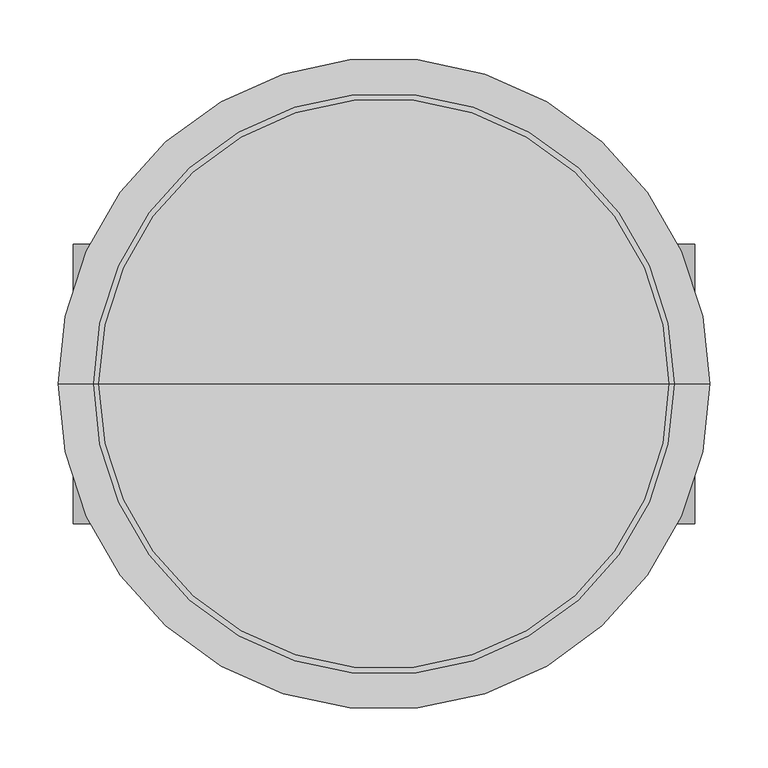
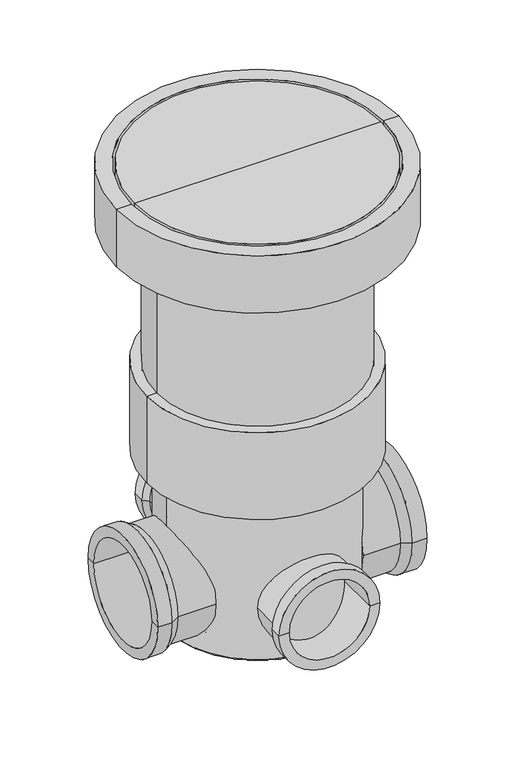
"""IFC4 building model written with IfcOpenShell, lengths in millimetres: pipe fitting geometry, PavcoWavin_UnionesDeTuberia_CajadeInspección400mm : Caja Inspección 400 mm."""

from ifc_helpers import new_model, si_unit, point, frame, origin, place, context, project, spatial, polyline, circle_curve, ellipse_curve, trimmed, source, transform, mapped, element, save
from ifc_brep_helpers import plane_surface, cylinder_surface, revolved_surface, advanced_brep


def pipe_fitting_6d74b92a(model_context):
    return source(origin(), model_context, "Body", "AdvancedBrep", [
        advanced_brep(
        [(90.0, -146.0, 0.0), (-90.0, -146.0, 0.0), (-80.0, -146.0, 0.0), (80.0, -146.0, 0.0), (-80.0, -247.0, 0.0), (80.0, -247.0, 0.0), (-100.0, -247.0, 0.0), (100.0, -247.0, 0.0), (-100.0, -224.0, 0.0), (100.0, -224.0, 0.0), (90.0, -214.0, 0.0), (-90.0, -214.0, 0.0)],
        [
            (0, 1, circle_curve(frame((0.0, -146.0, 0.0), z_axis=(0.0, 1.0, 0.0), x_axis=(-1.0, 0.0, 0.0)), 90.0)),
            (1, 2),
            (2, 3, circle_curve(frame((0.0, -146.0, 0.0), z_axis=(0.0, -1.0, 0.0), x_axis=(-1.0, 0.0, 0.0)), 80.0)),
            (3, 0),
            (2, 4),
            (4, 5, circle_curve(frame((0.0, -247.0, 0.0), z_axis=(0.0, -1.0, 0.0), x_axis=(-1.0, 0.0, 0.0)), 80.0)),
            (5, 3),
            (4, 6),
            (6, 7, circle_curve(frame((0.0, -247.0, 0.0), z_axis=(0.0, -1.0, 0.0), x_axis=(-1.0, 0.0, 0.0)), 100.0)),
            (7, 5),
            (6, 8),
            (8, 9, circle_curve(frame((0.0, -224.0, 0.0), z_axis=(0.0, -1.0, 0.0), x_axis=(-1.0, 0.0, 0.0)), 100.0)),
            (9, 7),
            (10, 11, circle_curve(frame((0.0, -214.0, 0.0), z_axis=(0.0, 1.0, 0.0), x_axis=(-1.0, 0.0, 0.0)), 90.0)),
            (11, 1),
            (0, 10),
            (11, 10, circle_curve(frame((0.0, -214.0, 0.0), z_axis=(0.0, 1.0, 0.0), x_axis=(-1.0, 0.0, 0.0)), 90.0)),
            (0, 1, circle_curve(frame((0.0, -146.0, 0.0), z_axis=(0.0, -1.0, 0.0), x_axis=(-1.0, 0.0, 0.0)), 90.0)),
            (6, 7, circle_curve(frame((0.0, -247.0, 0.0), z_axis=(0.0, 1.0, 0.0), x_axis=(-1.0, 0.0, 0.0)), 100.0)),
            (9, 8, circle_curve(frame((0.0, -224.0, 0.0), z_axis=(0.0, -1.0, 0.0), x_axis=(-1.0, 0.0, 0.0)), 100.0)),
            (4, 5, circle_curve(frame((0.0, -247.0, 0.0), z_axis=(0.0, 1.0, 0.0), x_axis=(-1.0, 0.0, 0.0)), 80.0)),
            (2, 3, circle_curve(frame((0.0, -146.0, 0.0), z_axis=(0.0, 1.0, 0.0), x_axis=(-1.0, 0.0, 0.0)), 80.0)),
            (8, 11),
            (10, 9),
        ],
        [
            plane_surface(frame((0.0, -146.0, 0.0), z_axis=(0.0, 1.0, 0.0), x_axis=(-1.0, 0.0, 0.0))),
            revolved_surface(polyline([(-80.0, -247.0, 0.0), (-80.0, -146.0, 0.0)]), (0.0, 1680.3661967, 0.0), (0.0, -1.0, 0.0)),
            plane_surface(frame((0.0, -247.0, 0.0), z_axis=(0.0, -1.0, 0.0), x_axis=(-1.0, 0.0, 0.0))),
            cylinder_surface(frame((0.0, 1680.3661967, 0.0), z_axis=(0.0, -1.0, 0.0), x_axis=(-1.0, 0.0, 0.0)), 100.0),
            cylinder_surface(frame((0.0, 1680.3661967, 0.0), z_axis=(0.0, -1.0, 0.0), x_axis=(-1.0, 0.0, 0.0)), 90.0),
            revolved_surface(polyline([(-90.0, -214.0, 0.0), (-100.0, -224.0, 0.0)]), (0.0, 1680.3661967, 0.0), (0.0, -1.0, 0.0)),
        ],
        [
            (0, [[1, 2, 3, 4]]),
            (1, [[-3, 5, 6, 7]]),
            (2, [[-6, 8, 9, 10]]),
            (3, [[-9, 11, 12, 13]]),
            (4, [[14, 15, -1, 16]]),
            (4, [[17, -16, 18, -15]]),
            (3, [[19, -13, 20, -11]]),
            (2, [[21, -10, -19, -8]]),
            (1, [[22, -7, -21, -5]]),
            (0, [[-18, -4, -22, -2]]),
            (5, [[-12, 23, -14, 24]]),
            (5, [[-20, -24, -17, -23]]),
        ],
    ),
        advanced_brep(
        [(80.0, 146.0, 0.0), (-80.0, 146.0, 0.0), (-90.0, 146.0, 0.0), (90.0, 146.0, 0.0), (80.0, 247.0, 0.0), (-80.0, 247.0, 0.0), (100.0, 247.0, 0.0), (-100.0, 247.0, 0.0), (100.0, 224.0, 0.0), (-100.0, 224.0, 0.0), (-90.0, 214.0, 0.0), (90.0, 214.0, 0.0)],
        [
            (0, 1, circle_curve(frame((0.0, 146.0, 0.0), z_axis=(0.0, 1.0, 0.0), x_axis=(-1.0, 0.0, 0.0)), 80.0)),
            (1, 2),
            (2, 3, circle_curve(frame((0.0, 146.0, 0.0), z_axis=(0.0, -1.0, 0.0), x_axis=(-1.0, 0.0, 0.0)), 90.0)),
            (3, 0),
            (1, 0, circle_curve(frame((0.0, 146.0, 0.0), z_axis=(0.0, 1.0, 0.0), x_axis=(-1.0, 0.0, 0.0)), 80.0)),
            (3, 2, circle_curve(frame((0.0, 146.0, 0.0), z_axis=(0.0, -1.0, 0.0), x_axis=(-1.0, 0.0, 0.0)), 90.0)),
            (4, 5, circle_curve(frame((0.0, 247.0, 0.0), z_axis=(0.0, 1.0, 0.0), x_axis=(-1.0, 0.0, 0.0)), 80.0)),
            (5, 1),
            (0, 4),
            (5, 4, circle_curve(frame((0.0, 247.0, 0.0), z_axis=(0.0, 1.0, 0.0), x_axis=(-1.0, 0.0, 0.0)), 80.0)),
            (6, 7, circle_curve(frame((0.0, 247.0, 0.0), z_axis=(0.0, 1.0, 0.0), x_axis=(-1.0, 0.0, 0.0)), 100.0)),
            (7, 5),
            (4, 6),
            (7, 6, circle_curve(frame((0.0, 247.0, 0.0), z_axis=(0.0, 1.0, 0.0), x_axis=(-1.0, 0.0, 0.0)), 100.0)),
            (8, 9, circle_curve(frame((0.0, 224.0, 0.0), z_axis=(0.0, 1.0, 0.0), x_axis=(-1.0, 0.0, 0.0)), 100.0)),
            (9, 7),
            (6, 8),
            (9, 8, circle_curve(frame((0.0, 224.0, 0.0), z_axis=(0.0, 1.0, 0.0), x_axis=(-1.0, 0.0, 0.0)), 100.0)),
            (2, 10),
            (10, 11, circle_curve(frame((0.0, 214.0, 0.0), z_axis=(0.0, -1.0, 0.0), x_axis=(-1.0, 0.0, 0.0)), 90.0)),
            (11, 3),
            (11, 10, circle_curve(frame((0.0, 214.0, 0.0), z_axis=(0.0, -1.0, 0.0), x_axis=(-1.0, 0.0, 0.0)), 90.0)),
            (10, 9),
            (8, 11),
        ],
        [
            plane_surface(frame((0.0, 146.0, 0.0), z_axis=(0.0, -1.0, 0.0), x_axis=(-1.0, 0.0, 0.0))),
            revolved_surface(polyline([(-80.0, 146.0, 0.0), (-80.0, 247.0, 0.0)]), (0.0, 1680.3661967, 0.0), (0.0, -1.0, 0.0)),
            plane_surface(frame((0.0, 247.0, 0.0), z_axis=(0.0, 1.0, 0.0), x_axis=(-1.0, 0.0, 0.0))),
            cylinder_surface(frame((0.0, 1680.3661967, 0.0), z_axis=(0.0, -1.0, 0.0), x_axis=(-1.0, 0.0, 0.0)), 100.0),
            cylinder_surface(frame((0.0, 1680.3661967, 0.0), z_axis=(0.0, -1.0, 0.0), x_axis=(-1.0, 0.0, 0.0)), 90.0),
            revolved_surface(polyline([(-100.0, 224.0, 0.0), (-90.0, 214.0, 0.0)]), (0.0, 1680.3661967, 0.0), (0.0, -1.0, 0.0)),
        ],
        [
            (0, [[1, 2, 3, 4]]),
            (0, [[5, -4, 6, -2]]),
            (1, [[7, 8, -1, 9]]),
            (1, [[10, -9, -5, -8]]),
            (2, [[11, 12, -7, 13]]),
            (2, [[14, -13, -10, -12]]),
            (3, [[15, 16, -11, 17]]),
            (3, [[18, -17, -14, -16]]),
            (4, [[-3, 19, 20, 21]]),
            (4, [[-6, -21, 22, -19]]),
            (5, [[-20, 23, -15, 24]]),
            (5, [[-22, -24, -18, -23]]),
        ],
    ),
        advanced_brep(
        [(-267.0, -100.0, 0.0), (-267.0, 100.0, 0.0), (-267.0, 120.0, 0.0), (-267.0, -120.0, 0.0), (-146.0, -110.0, 0.0), (-146.0, 110.0, 0.0), (-146.0, 100.0, 0.0), (-146.0, -100.0, 0.0), (-220.6794919, -110.0, 0.0), (-220.6794919, 110.0, 0.0), (-238.0, -120.0, 0.0), (-238.0, 120.0, 0.0)],
        [
            (0, 1, circle_curve(frame((-267.0, 0.0, 0.0), z_axis=(1.0, 0.0, 0.0), x_axis=(0.0, 1.0, 0.0)), 100.0)),
            (1, 2),
            (2, 3, circle_curve(frame((-267.0, 0.0, 0.0), z_axis=(-1.0, 0.0, 0.0), x_axis=(0.0, 1.0, 0.0)), 120.0)),
            (3, 0),
            (4, 5, circle_curve(frame((-146.0, 0.0, 0.0), z_axis=(1.0, 0.0, 0.0), x_axis=(0.0, 1.0, 0.0)), 110.0)),
            (5, 6),
            (6, 7, circle_curve(frame((-146.0, 0.0, 0.0), z_axis=(-1.0, 0.0, 0.0), x_axis=(0.0, 1.0, 0.0)), 100.0)),
            (7, 4),
            (5, 4, circle_curve(frame((-146.0, 0.0, 0.0), z_axis=(1.0, 0.0, 0.0), x_axis=(0.0, 1.0, 0.0)), 110.0)),
            (7, 6, circle_curve(frame((-146.0, 0.0, 0.0), z_axis=(-1.0, 0.0, 0.0), x_axis=(0.0, 1.0, 0.0)), 100.0)),
            (1, 0, circle_curve(frame((-267.0, 0.0, 0.0), z_axis=(1.0, 0.0, 0.0), x_axis=(0.0, 1.0, 0.0)), 100.0)),
            (3, 2, circle_curve(frame((-267.0, 0.0, 0.0), z_axis=(-1.0, 0.0, 0.0), x_axis=(0.0, 1.0, 0.0)), 120.0)),
            (6, 1),
            (0, 7),
            (8, 9, circle_curve(frame((-220.6794919, 0.0, 0.0), z_axis=(1.0, 0.0, 0.0), x_axis=(0.0, 1.0, 0.0)), 110.0)),
            (9, 5),
            (4, 8),
            (9, 8, circle_curve(frame((-220.6794919, 0.0, 0.0), z_axis=(1.0, 0.0, 0.0), x_axis=(0.0, 1.0, 0.0)), 110.0)),
            (10, 11, circle_curve(frame((-238.0, 0.0, 0.0), z_axis=(1.0, 0.0, 0.0), x_axis=(0.0, 1.0, 0.0)), 120.0)),
            (11, 9),
            (8, 10),
            (11, 10, circle_curve(frame((-238.0, 0.0, 0.0), z_axis=(1.0, 0.0, 0.0), x_axis=(0.0, 1.0, 0.0)), 120.0)),
            (2, 11),
            (10, 3),
        ],
        [
            plane_surface(frame((-267.0, 0.0, 0.0), z_axis=(-1.0, 0.0, 0.0), x_axis=(0.0, 1.0, 0.0))),
            plane_surface(frame((-146.0, 0.0, 0.0), z_axis=(1.0, 0.0, 0.0), x_axis=(0.0, 1.0, 0.0))),
            revolved_surface(polyline([(-267.0, 100.0, 0.0), (-146.0, 100.0, 0.0)]), (-206.5, 0.0, 0.0), (-1.0, 0.0, 0.0)),
            cylinder_surface(frame((-206.5, 0.0, 0.0), z_axis=(-1.0, 0.0, 0.0), x_axis=(0.0, 1.0, 0.0)), 110.0),
            revolved_surface(polyline([(-220.6794919, 110.0, 0.0), (-238.0, 120.0, 0.0)]), (-206.5, 0.0, 0.0), (-1.0, 0.0, 0.0)),
            cylinder_surface(frame((-206.5, 0.0, 0.0), z_axis=(-1.0, 0.0, 0.0), x_axis=(0.0, 1.0, 0.0)), 120.0),
        ],
        [
            (0, [[1, 2, 3, 4]]),
            (1, [[5, 6, 7, 8]]),
            (1, [[9, -8, 10, -6]]),
            (0, [[11, -4, 12, -2]]),
            (2, [[-7, 13, -1, 14]]),
            (2, [[-10, -14, -11, -13]]),
            (3, [[15, 16, -5, 17]]),
            (3, [[18, -17, -9, -16]]),
            (4, [[19, 20, -15, 21]]),
            (4, [[22, -21, -18, -20]]),
            (5, [[-3, 23, -19, 24]]),
            (5, [[-12, -24, -22, -23]]),
        ],
    ),
        advanced_brep(
        [(267.0, -100.0, 0.0), (267.0, 100.0, 0.0), (146.0, 100.0, 0.0), (146.0, -100.0, 0.0), (267.0, -120.0, 0.0), (267.0, 120.0, 0.0), (238.0, -120.0, 0.0), (238.0, 120.0, 0.0), (220.6794919, -110.0, 0.0), (220.6794919, 110.0, 0.0), (146.0, -110.0, 0.0), (146.0, 110.0, 0.0)],
        [
            (0, 1, circle_curve(frame((267.0, 0.0, 0.0), z_axis=(1.0, 0.0, 0.0), x_axis=(0.0, 1.0, 0.0)), 100.0)),
            (1, 2),
            (2, 3, circle_curve(frame((146.0, 0.0, 0.0), z_axis=(-1.0, 0.0, 0.0), x_axis=(0.0, 1.0, 0.0)), 100.0)),
            (3, 0),
            (1, 0, circle_curve(frame((267.0, 0.0, 0.0), z_axis=(1.0, 0.0, 0.0), x_axis=(0.0, 1.0, 0.0)), 100.0)),
            (3, 2, circle_curve(frame((146.0, 0.0, 0.0), z_axis=(-1.0, 0.0, 0.0), x_axis=(0.0, 1.0, 0.0)), 100.0)),
            (4, 5, circle_curve(frame((267.0, 0.0, 0.0), z_axis=(1.0, 0.0, 0.0), x_axis=(0.0, 1.0, 0.0)), 120.0)),
            (5, 1),
            (0, 4),
            (5, 4, circle_curve(frame((267.0, 0.0, 0.0), z_axis=(1.0, 0.0, 0.0), x_axis=(0.0, 1.0, 0.0)), 120.0)),
            (6, 7, circle_curve(frame((238.0, 0.0, 0.0), z_axis=(1.0, 0.0, 0.0), x_axis=(0.0, 1.0, 0.0)), 120.0)),
            (7, 5),
            (4, 6),
            (7, 6, circle_curve(frame((238.0, 0.0, 0.0), z_axis=(1.0, 0.0, 0.0), x_axis=(0.0, 1.0, 0.0)), 120.0)),
            (8, 9, circle_curve(frame((220.6794919, 0.0, 0.0), z_axis=(1.0, 0.0, 0.0), x_axis=(0.0, 1.0, 0.0)), 110.0)),
            (9, 7),
            (6, 8),
            (9, 8, circle_curve(frame((220.6794919, 0.0, 0.0), z_axis=(1.0, 0.0, 0.0), x_axis=(0.0, 1.0, 0.0)), 110.0)),
            (10, 11, circle_curve(frame((146.0, 0.0, 0.0), z_axis=(1.0, 0.0, 0.0), x_axis=(0.0, 1.0, 0.0)), 110.0)),
            (11, 9),
            (8, 10),
            (11, 10, circle_curve(frame((146.0, 0.0, 0.0), z_axis=(1.0, 0.0, 0.0), x_axis=(0.0, 1.0, 0.0)), 110.0)),
            (2, 11),
            (10, 3),
        ],
        [
            revolved_surface(polyline([(146.0, 100.0, 0.0), (267.0, 100.0, 0.0)]), (-206.5, 0.0, 0.0), (-1.0, 0.0, 0.0)),
            plane_surface(frame((267.0, 0.0, 0.0), z_axis=(1.0, 0.0, 0.0), x_axis=(0.0, 1.0, 0.0))),
            cylinder_surface(frame((-206.5, 0.0, 0.0), z_axis=(-1.0, 0.0, 0.0), x_axis=(0.0, 1.0, 0.0)), 120.0),
            revolved_surface(polyline([(238.0, 120.0, 0.0), (220.6794919, 110.0, 0.0)]), (-206.5, 0.0, 0.0), (-1.0, 0.0, 0.0)),
            cylinder_surface(frame((-206.5, 0.0, 0.0), z_axis=(-1.0, 0.0, 0.0), x_axis=(0.0, 1.0, 0.0)), 110.0),
            plane_surface(frame((146.0, 0.0, 0.0), z_axis=(-1.0, 0.0, 0.0), x_axis=(0.0, 1.0, 0.0))),
        ],
        [
            (0, [[1, 2, 3, 4]]),
            (0, [[5, -4, 6, -2]]),
            (1, [[7, 8, -1, 9]]),
            (1, [[10, -9, -5, -8]]),
            (2, [[11, 12, -7, 13]]),
            (2, [[14, -13, -10, -12]]),
            (3, [[15, 16, -11, 17]]),
            (3, [[18, -17, -14, -16]]),
            (4, [[19, 20, -15, 21]]),
            (4, [[22, -21, -18, -20]]),
            (5, [[-3, 23, -19, 24]]),
            (5, [[-6, -24, -22, -23]]),
        ],
    ),
        advanced_brep(
        [(245.0, 0.0, 739.0), (-245.0, 0.0, 739.0), (-245.0, 0.0, 809.0), (245.0, 0.0, 809.0), (200.0, 0.0, 739.0), (-200.0, 0.0, 739.0), (179.2893219, 0.0, 759.7106781), (-179.2893219, 0.0, 759.7106781), (0.0, 0.0, 759.7106781), (0.0, 0.0, 809.0)],
        [
            (0, 1, circle_curve(frame((0.0, 0.0, 739.0), z_axis=(0.0, 0.0, 1.0), x_axis=(-1.0, 0.0, 0.0)), 245.0)),
            (1, 2),
            (2, 3, circle_curve(frame((0.0, 0.0, 809.0), z_axis=(0.0, 0.0, -1.0), x_axis=(-1.0, 0.0, 0.0)), 245.0)),
            (3, 0),
            (1, 0, circle_curve(frame((0.0, 0.0, 739.0), z_axis=(0.0, 0.0, 1.0), x_axis=(-1.0, 0.0, 0.0)), 245.0)),
            (3, 2, circle_curve(frame((0.0, 0.0, 809.0), z_axis=(0.0, 0.0, -1.0), x_axis=(-1.0, 0.0, 0.0)), 245.0)),
            (4, 5, circle_curve(frame((0.0, 0.0, 739.0), z_axis=(0.0, 0.0, 1.0), x_axis=(-1.0, 0.0, 0.0)), 200.0)),
            (5, 1),
            (0, 4),
            (5, 4, circle_curve(frame((0.0, 0.0, 739.0), z_axis=(0.0, 0.0, 1.0), x_axis=(-1.0, 0.0, 0.0)), 200.0)),
            (6, 7, circle_curve(frame((0.0, 0.0, 759.7106781), z_axis=(0.0, 0.0, 1.0), x_axis=(-1.0, 0.0, 0.0)), 179.2893219)),
            (7, 5),
            (4, 6),
            (7, 6, circle_curve(frame((0.0, 0.0, 759.7106781), z_axis=(0.0, 0.0, 1.0), x_axis=(-1.0, 0.0, 0.0)), 179.2893219)),
            (8, 7),
            (6, 8),
            (2, 9),
            (9, 3),
        ],
        [
            cylinder_surface(frame((0.0, 0.0, 1640.8781705), z_axis=(0.0, 0.0, -1.0), x_axis=(-1.0, 0.0, 0.0)), 245.0),
            plane_surface(frame((0.0, 0.0, 739.0), z_axis=(0.0, 0.0, -1.0), x_axis=(-1.0, 0.0, 0.0))),
            revolved_surface(polyline([(-200.0, 0.0, 739.0), (-179.2893219, 0.0, 759.7106781)]), (0.0, 0.0, 1640.8781705), (0.0, 0.0, -1.0)),
            plane_surface(frame((0.0, 0.0, 759.7106781), z_axis=(0.0, 0.0, -1.0), x_axis=(-1.0, 0.0, 0.0))),
            plane_surface(frame((0.0, 0.0, 809.0), z_axis=(0.0, 0.0, 1.0), x_axis=(-1.0, 0.0, 0.0))),
        ],
        [
            (0, [[1, 2, 3, 4]]),
            (0, [[5, -4, 6, -2]]),
            (1, [[7, 8, -1, 9]]),
            (1, [[10, -9, -5, -8]]),
            (2, [[11, 12, -7, 13]]),
            (2, [[14, -13, -10, -12]]),
            (3, [[15, -11, 16]]),
            (3, [[-16, -14, -15]]),
            (4, [[-3, 17, 18]]),
            (4, [[-6, -18, -17]]),
        ],
    ),
        advanced_brep(
        [(250.0, 0.0, 809.0), (-250.0, 0.0, 809.0), (-250.0, 0.0, 734.0), (250.0, 0.0, 734.0), (280.0, 0.0, 809.0), (-280.0, 0.0, 809.0), (280.0, 0.0, 689.0), (-280.0, 0.0, 689.0), (210.0, 0.0, 689.0), (-210.0, 0.0, 689.0), (210.0, 0.0, 734.0), (-210.0, 0.0, 734.0)],
        [
            (0, 1, circle_curve(frame((0.0, 0.0, 809.0), z_axis=(0.0, 0.0, 1.0), x_axis=(-1.0, 0.0, 0.0)), 250.0)),
            (1, 2),
            (2, 3, circle_curve(frame((0.0, 0.0, 734.0), z_axis=(0.0, 0.0, -1.0), x_axis=(-1.0, 0.0, 0.0)), 250.0)),
            (3, 0),
            (1, 0, circle_curve(frame((0.0, 0.0, 809.0), z_axis=(0.0, 0.0, 1.0), x_axis=(-1.0, 0.0, 0.0)), 250.0)),
            (3, 2, circle_curve(frame((0.0, 0.0, 734.0), z_axis=(0.0, 0.0, -1.0), x_axis=(-1.0, 0.0, 0.0)), 250.0)),
            (4, 5, circle_curve(frame((0.0, 0.0, 809.0), z_axis=(0.0, 0.0, 1.0), x_axis=(-1.0, 0.0, 0.0)), 280.0)),
            (5, 1),
            (0, 4),
            (5, 4, circle_curve(frame((0.0, 0.0, 809.0), z_axis=(0.0, 0.0, 1.0), x_axis=(-1.0, 0.0, 0.0)), 280.0)),
            (6, 7, circle_curve(frame((0.0, 0.0, 689.0), z_axis=(0.0, 0.0, 1.0), x_axis=(-1.0, 0.0, 0.0)), 280.0)),
            (7, 5),
            (4, 6),
            (7, 6, circle_curve(frame((0.0, 0.0, 689.0), z_axis=(0.0, 0.0, 1.0), x_axis=(-1.0, 0.0, 0.0)), 280.0)),
            (8, 9, circle_curve(frame((0.0, 0.0, 689.0), z_axis=(0.0, 0.0, 1.0), x_axis=(-1.0, 0.0, 0.0)), 210.0)),
            (9, 7),
            (6, 8),
            (9, 8, circle_curve(frame((0.0, 0.0, 689.0), z_axis=(0.0, 0.0, 1.0), x_axis=(-1.0, 0.0, 0.0)), 210.0)),
            (10, 11, circle_curve(frame((0.0, 0.0, 734.0), z_axis=(0.0, 0.0, 1.0), x_axis=(-1.0, 0.0, 0.0)), 210.0)),
            (11, 9),
            (8, 10),
            (11, 10, circle_curve(frame((0.0, 0.0, 734.0), z_axis=(0.0, 0.0, 1.0), x_axis=(-1.0, 0.0, 0.0)), 210.0)),
            (2, 11),
            (10, 3),
        ],
        [
            revolved_surface(polyline([(-250.0, 0.0, 734.0), (-250.0, 0.0, 809.0)]), (0.0, 0.0, 1640.8781705), (0.0, 0.0, -1.0)),
            plane_surface(frame((0.0, 0.0, 809.0), z_axis=(0.0, 0.0, 1.0), x_axis=(-1.0, 0.0, 0.0))),
            cylinder_surface(frame((0.0, 0.0, 1640.8781705), z_axis=(0.0, 0.0, -1.0), x_axis=(-1.0, 0.0, 0.0)), 280.0),
            plane_surface(frame((0.0, 0.0, 689.0), z_axis=(0.0, 0.0, -1.0), x_axis=(-1.0, 0.0, 0.0))),
            revolved_surface(polyline([(-210.0, 0.0, 689.0), (-210.0, 0.0, 734.0)]), (0.0, 0.0, 1640.8781705), (0.0, 0.0, -1.0)),
            plane_surface(frame((0.0, 0.0, 734.0), z_axis=(0.0, 0.0, 1.0), x_axis=(-1.0, 0.0, 0.0))),
        ],
        [
            (0, [[1, 2, 3, 4]]),
            (0, [[5, -4, 6, -2]]),
            (1, [[7, 8, -1, 9]]),
            (1, [[10, -9, -5, -8]]),
            (2, [[11, 12, -7, 13]]),
            (2, [[14, -13, -10, -12]]),
            (3, [[15, 16, -11, 17]]),
            (3, [[18, -17, -14, -16]]),
            (4, [[19, 20, -15, 21]]),
            (4, [[22, -21, -18, -20]]),
            (5, [[-3, 23, -19, 24]]),
            (5, [[-6, -24, -22, -23]]),
        ],
    ),
        advanced_brep(
        [(200.0, 0.0, 234.0), (-200.0, 0.0, 234.0), (-200.0, 0.0, 734.0), (200.0, 0.0, 734.0), (181.0, 0.0, 234.0), (-181.0, 0.0, 234.0), (181.0, 0.0, 734.0), (-181.0, 0.0, 734.0)],
        [
            (0, 1, circle_curve(frame((0.0, 0.0, 234.0), z_axis=(0.0, 0.0, 1.0), x_axis=(-1.0, 0.0, 0.0)), 200.0)),
            (1, 2),
            (2, 3, circle_curve(frame((0.0, 0.0, 734.0), z_axis=(0.0, 0.0, -1.0), x_axis=(-1.0, 0.0, 0.0)), 200.0)),
            (3, 0),
            (1, 0, circle_curve(frame((0.0, 0.0, 234.0), z_axis=(0.0, 0.0, 1.0), x_axis=(-1.0, 0.0, 0.0)), 200.0)),
            (3, 2, circle_curve(frame((0.0, 0.0, 734.0), z_axis=(0.0, 0.0, -1.0), x_axis=(-1.0, 0.0, 0.0)), 200.0)),
            (4, 5, circle_curve(frame((0.0, 0.0, 234.0), z_axis=(0.0, 0.0, 1.0), x_axis=(-1.0, 0.0, 0.0)), 181.0)),
            (5, 1),
            (0, 4),
            (5, 4, circle_curve(frame((0.0, 0.0, 234.0), z_axis=(0.0, 0.0, 1.0), x_axis=(-1.0, 0.0, 0.0)), 181.0)),
            (6, 7, circle_curve(frame((0.0, 0.0, 734.0), z_axis=(0.0, 0.0, 1.0), x_axis=(-1.0, 0.0, 0.0)), 181.0)),
            (7, 5),
            (4, 6),
            (7, 6, circle_curve(frame((0.0, 0.0, 734.0), z_axis=(0.0, 0.0, 1.0), x_axis=(-1.0, 0.0, 0.0)), 181.0)),
            (2, 7),
            (6, 3),
        ],
        [
            cylinder_surface(frame((0.0, 0.0, 1755.8114894), z_axis=(0.0, 0.0, -1.0), x_axis=(-1.0, 0.0, 0.0)), 200.0),
            plane_surface(frame((0.0, 0.0, 234.0), z_axis=(0.0, 0.0, -1.0), x_axis=(-1.0, 0.0, 0.0))),
            revolved_surface(polyline([(-181.0, 0.0, 234.0), (-181.0, 0.0, 734.0)]), (0.0, 0.0, 1755.8114894), (0.0, 0.0, -1.0)),
            plane_surface(frame((0.0, 0.0, 734.0), z_axis=(0.0, 0.0, 1.0), x_axis=(-1.0, 0.0, 0.0))),
        ],
        [
            (0, [[1, 2, 3, 4]]),
            (0, [[5, -4, 6, -2]]),
            (1, [[7, 8, -1, 9]]),
            (1, [[10, -9, -5, -8]]),
            (2, [[11, 12, -7, 13]]),
            (2, [[14, -13, -10, -12]]),
            (3, [[-3, 15, -11, 16]]),
            (3, [[-6, -16, -14, -15]]),
        ],
    ),
        advanced_brep(
        [(220.0, 0.0, 396.0), (-220.0, 0.0, 396.0), (-200.0, 0.0, 396.0), (200.0, 0.0, 396.0), (220.0, 0.0, 214.0), (-220.0, 0.0, 214.0), (0.0, 0.0, -110.0), (-178.0, 0.0, -110.0), (178.0, 0.0, -110.0), (200.0, 0.0, 234.0), (-200.0, 0.0, 234.0), (0.0, 0.0, 234.0), (181.0, 0.0, -107.0), (-181.0, 0.0, -107.0), (-181.0, 0.0, 214.0), (181.0, 0.0, 214.0)],
        [
            (0, 1, circle_curve(frame((0.0, 0.0, 396.0), z_axis=(0.0, 0.0, 1.0), x_axis=(-1.0, 0.0, 0.0)), 220.0)),
            (1, 2),
            (2, 3, circle_curve(frame((0.0, 0.0, 396.0), z_axis=(0.0, 0.0, -1.0), x_axis=(-1.0, 0.0, 0.0)), 200.0)),
            (3, 0),
            (1, 0, circle_curve(frame((0.0, 0.0, 396.0), z_axis=(0.0, 0.0, 1.0), x_axis=(-1.0, 0.0, 0.0)), 220.0)),
            (3, 2, circle_curve(frame((0.0, 0.0, 396.0), z_axis=(0.0, 0.0, -1.0), x_axis=(-1.0, 0.0, 0.0)), 200.0)),
            (4, 5, circle_curve(frame((0.0, 0.0, 214.0), z_axis=(0.0, 0.0, 1.0), x_axis=(-1.0, 0.0, 0.0)), 220.0)),
            (5, 1),
            (0, 4),
            (5, 4, circle_curve(frame((0.0, 0.0, 214.0), z_axis=(0.0, 0.0, 1.0), x_axis=(-1.0, 0.0, 0.0)), 220.0)),
            (6, 7),
            (7, 8, circle_curve(frame((0.0, 0.0, -110.0), z_axis=(0.0, 0.0, -1.0), x_axis=(-1.0, 0.0, 0.0)), 178.0)),
            (8, 6),
            (8, 7, circle_curve(frame((0.0, 0.0, -110.0), z_axis=(0.0, 0.0, -1.0), x_axis=(-1.0, 0.0, 0.0)), 178.0)),
            (9, 10, circle_curve(frame((0.0, 0.0, 234.0), z_axis=(0.0, 0.0, 1.0), x_axis=(-1.0, 0.0, 0.0)), 200.0)),
            (10, 11),
            (11, 9),
            (10, 9, circle_curve(frame((0.0, 0.0, 234.0), z_axis=(0.0, 0.0, 1.0), x_axis=(-1.0, 0.0, 0.0)), 200.0)),
            (12, 13, circle_curve(frame((0.0, 0.0, -107.0), z_axis=(0.0, 0.0, 1.0), x_axis=(-1.0, 0.0, 0.0)), 181.0)),
            (13, 14),
            (14, 15, circle_curve(frame((0.0, 0.0, 214.0), z_axis=(0.0, 0.0, -1.0), x_axis=(-1.0, 0.0, 0.0)), 181.0)),
            (15, 12),
            (13, 12, circle_curve(frame((0.0, 0.0, -107.0), z_axis=(0.0, 0.0, 1.0), x_axis=(-1.0, 0.0, 0.0)), 181.0)),
            (15, 14, circle_curve(frame((0.0, 0.0, 214.0), z_axis=(0.0, 0.0, -1.0), x_axis=(-1.0, 0.0, 0.0)), 181.0)),
            (14, 5),
            (4, 15),
            (2, 10),
            (9, 3),
            (7, 13, circle_curve(frame((-178.0, 0.0, -107.0), z_axis=(0.0, 1.0, 0.0), x_axis=(1.0, 0.0, 0.0)), 3.0)),
            (12, 8, circle_curve(frame((178.0, 0.0, -107.0), z_axis=(0.0, 1.0, 0.0), x_axis=(-1.0, 0.0, 0.0)), 3.0)),
        ],
        [
            plane_surface(frame((0.0, 0.0, 396.0), z_axis=(0.0, 0.0, 1.0), x_axis=(-1.0, 0.0, 0.0))),
            cylinder_surface(frame((0.0, 0.0, 353.1779757), z_axis=(0.0, 0.0, -1.0), x_axis=(-1.0, 0.0, 0.0)), 220.0),
            plane_surface(frame((0.0, 0.0, -110.0), z_axis=(0.0, 0.0, -1.0), x_axis=(-1.0, 0.0, 0.0))),
            plane_surface(frame((0.0, 0.0, 234.0), z_axis=(0.0, 0.0, 1.0), x_axis=(-1.0, 0.0, 0.0))),
            cylinder_surface(frame((0.0, 0.0, 353.1779757), z_axis=(0.0, 0.0, -1.0), x_axis=(-1.0, 0.0, 0.0)), 181.0),
            plane_surface(frame((0.0, 0.0, 214.0), z_axis=(0.0, 0.0, -1.0), x_axis=(-1.0, 0.0, 0.0))),
            revolved_surface(polyline([(-200.0, 0.0, 234.0), (-200.0, 0.0, 396.0)]), (0.0, 0.0, 353.1779757), (0.0, 0.0, -1.0)),
            revolved_surface(trimmed(ellipse_curve(frame((-178.0, 0.0, -107.0), z_axis=(0.0, -1.0, 0.0), x_axis=(1.0, 0.0, 0.0)), 3.0, 3.0), [point((-181.0, 0.0, -107.0))], [point((-178.0, 0.0, -110.0))], True, "CARTESIAN"), (0.0, 0.0, 353.1779757), (0.0, 0.0, -1.0)),
        ],
        [
            (0, [[1, 2, 3, 4]]),
            (0, [[5, -4, 6, -2]]),
            (1, [[7, 8, -1, 9]]),
            (1, [[10, -9, -5, -8]]),
            (2, [[11, 12, 13]]),
            (2, [[-13, 14, -11]]),
            (3, [[15, 16, 17]]),
            (3, [[18, -17, -16]]),
            (4, [[19, 20, 21, 22]]),
            (4, [[23, -22, 24, -20]]),
            (5, [[-21, 25, -7, 26]]),
            (5, [[-24, -26, -10, -25]]),
            (6, [[-3, 27, -15, 28]]),
            (6, [[-6, -28, -18, -27]]),
            (7, [[-12, 29, -19, 30]]),
            (7, [[-14, -30, -23, -29]]),
        ],
    ),
    ])


if __name__ == "__main__":
    model = new_model("IFC4")
    model_context = context("Model", 3, world=origin())
    ifc_project = project(units=[si_unit("LENGTHUNIT", "METRE", prefix="MILLI")], contexts=[model_context])
    site = spatial("IfcSite", under=ifc_project)
    building = spatial("IfcBuilding", under=site)
    placement = place(None, origin())
    pipe_fitting_shape = pipe_fitting_6d74b92a(model_context)
    element("IfcPipeFitting", 1, ObjectType="PavcoWavin_UnionesDeTuberia_CajadeInspección400mm : Caja Inspección 400 mm", at=placement, inside=building, context=model_context, shape_type="MappedRepresentation", body=[
        mapped(pipe_fitting_shape, transform((0.0, 0.0, 0.0), x_axis=(1.0, 0.0, 0.0), y_axis=(0.0, 1.0, 0.0), z_axis=(0.0, 0.0, 1.0))),
    ])
    save(model, "model.ifc")
